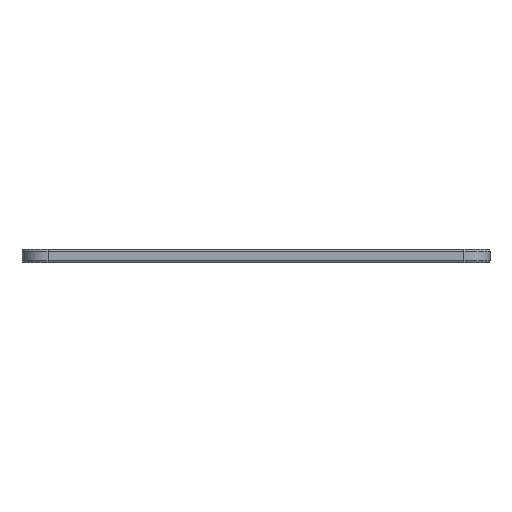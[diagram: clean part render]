
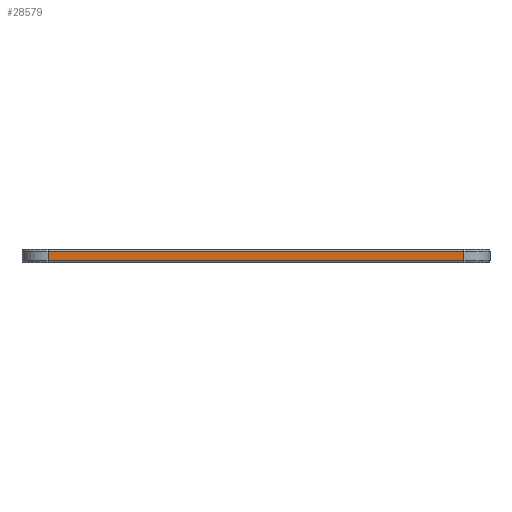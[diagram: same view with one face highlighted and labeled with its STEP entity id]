
A CAD part, front view. The second image highlights one B-rep face of the part: STEP entity #28579.
In plain terms, the highlighted planar face has unit normal (0, -1, 0).
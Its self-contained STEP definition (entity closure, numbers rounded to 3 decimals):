
#2 = CARTESIAN_POINT ( 'NONE',  ( 23.99, -42.8, 0.55 ) ) ;
#1019 = VECTOR ( 'NONE', #18679, 1000. ) ;
#1224 = CARTESIAN_POINT ( 'NONE',  ( -23.99, -42.8, 0.55 ) ) ;
#1681 = CARTESIAN_POINT ( 'NONE',  ( -23.99, -42.8, -0.55 ) ) ;
#2010 = DIRECTION ( 'NONE',  ( 0., 1., 0. ) ) ;
#2244 = LINE ( 'NONE', #26202, #31258 ) ;
#3136 = LINE ( 'NONE', #21737, #1019 ) ;
#3464 = VERTEX_POINT ( 'NONE', #2 ) ;
#4522 = EDGE_CURVE ( 'NONE', #25964, #29873, #5072, .T. ) ;
#5062 = LINE ( 'NONE', #24627, #23148 ) ;
#5072 = LINE ( 'NONE', #8245, #32829 ) ;
#6529 = ORIENTED_EDGE ( 'NONE', *, *, #14777, .T. ) ;
#7402 = EDGE_LOOP ( 'NONE', ( #21902, #14512, #6529, #25218 ) ) ;
#8245 = CARTESIAN_POINT ( 'NONE',  ( -26.99, -42.8, -0.55 ) ) ;
#14512 = ORIENTED_EDGE ( 'NONE', *, *, #4522, .T. ) ;
#14777 = EDGE_CURVE ( 'NONE', #29873, #3464, #2244, .T. ) ;
#16138 = DIRECTION ( 'NONE',  ( 0., 0., -1. ) ) ;
#18679 = DIRECTION ( 'NONE',  ( -1., 0., 0. ) ) ;
#19419 = AXIS2_PLACEMENT_3D ( 'NONE', #23650, #2010, #31294 ) ;
#20274 = EDGE_CURVE ( 'NONE', #3464, #25710, #3136, .T. ) ;
#21737 = CARTESIAN_POINT ( 'NONE',  ( -23.99, -42.8, 0.55 ) ) ;
#21902 = ORIENTED_EDGE ( 'NONE', *, *, #34562, .T. ) ;
#23146 = DIRECTION ( 'NONE',  ( 0., 0., 1. ) ) ;
#23148 = VECTOR ( 'NONE', #16138, 1000. ) ;
#23422 = PLANE ( 'NONE',  #19419 ) ;
#23650 = CARTESIAN_POINT ( 'NONE',  ( -26.99, -42.8, 0.75 ) ) ;
#24049 = DIRECTION ( 'NONE',  ( 1., 0., 0. ) ) ;
#24627 = CARTESIAN_POINT ( 'NONE',  ( -23.99, -42.8, 0.75 ) ) ;
#25198 = CARTESIAN_POINT ( 'NONE',  ( 23.99, -42.8, -0.55 ) ) ;
#25218 = ORIENTED_EDGE ( 'NONE', *, *, #20274, .T. ) ;
#25710 = VERTEX_POINT ( 'NONE', #1224 ) ;
#25964 = VERTEX_POINT ( 'NONE', #1681 ) ;
#26202 = CARTESIAN_POINT ( 'NONE',  ( 23.99, -42.8, 0.75 ) ) ;
#27460 = FACE_OUTER_BOUND ( 'NONE', #7402, .T. ) ;
#28579 = ADVANCED_FACE ( 'NONE', ( #27460 ), #23422, .F. ) ;
#29873 = VERTEX_POINT ( 'NONE', #25198 ) ;
#31258 = VECTOR ( 'NONE', #23146, 1000. ) ;
#31294 = DIRECTION ( 'NONE',  ( -1., 0., 0. ) ) ;
#32829 = VECTOR ( 'NONE', #24049, 1000. ) ;
#34562 = EDGE_CURVE ( 'NONE', #25710, #25964, #5062, .T. ) ;
